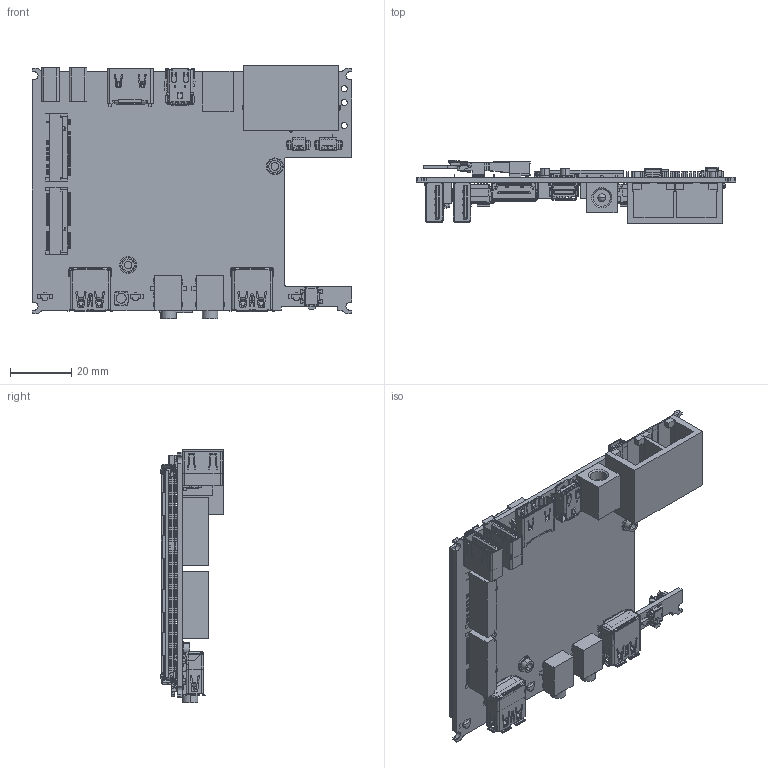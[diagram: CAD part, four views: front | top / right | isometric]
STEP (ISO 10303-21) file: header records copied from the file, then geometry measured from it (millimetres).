
FILE_DESCRIPTION (( 'STEP AP203' ), '1' );
FILE_NAME ('SBC-APL.STEP', '2018-01-17T13:19:11', ( 'Windows User' ), ( '' ), 'SwSTEP 2.0', 'SolidWorks 2015', '' );
FILE_SCHEMA (( 'CONFIG_CONTROL_DESIGN' ));
Products named in the file (1): SBC-APL
Bounding box: 104 x 20.55 x 82.45 mm (x, y, z)
Surface area: 40186 mm2 (no closed solid volume)
Topology: 0 solids, 361 shells, 3726 faces, 17981 edges, 13870 vertices
Faces by surface type: plane 2984, cylinder 604, bspline 107, cone 23, torus 8
Entity records: 184329 total; most frequent: CARTESIAN_POINT 47666, ORIENTED_EDGE 25365, DIRECTION 25303, EDGE_CURVE 17977, LINE 14633, VECTOR 14633, VERTEX_POINT 13870, AXIS2_PLACEMENT_3D 5335
